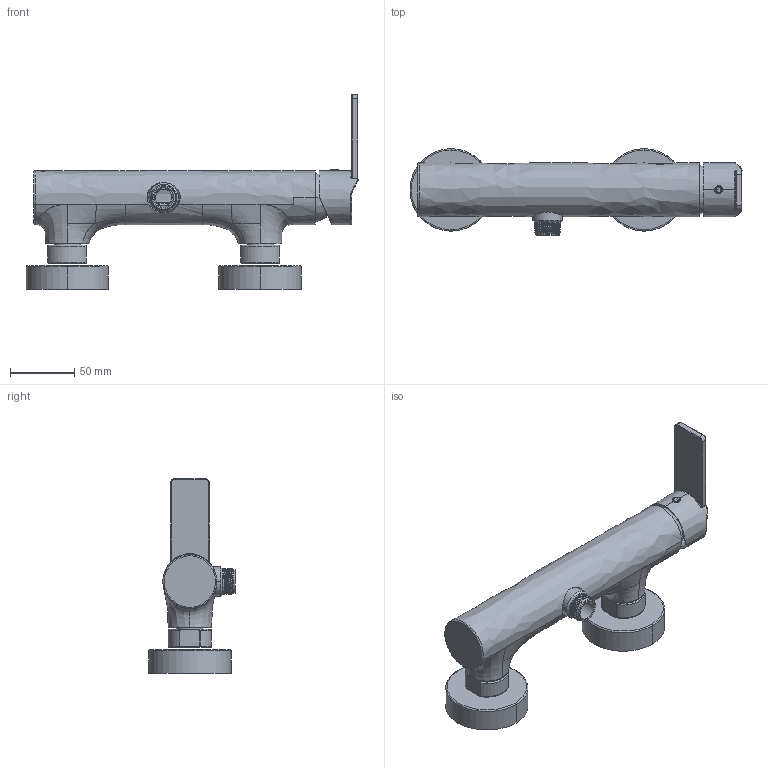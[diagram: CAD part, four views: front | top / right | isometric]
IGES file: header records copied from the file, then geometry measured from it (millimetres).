
Start section:  PTC IGES file: 47006_sw0001.igs
Global section: file name: 47006_sw0001.igs; native system: Creo Parametric by PTC Inc.; preprocessor: 2022014; author: volponeff; organization: Unknown; date: 20240221.093212; units: millimetre
Bounding box: 258.1 x 67.3 x 151.3 mm (x, y, z)
Surface area: 148098.7 mm2 (no closed solid volume)
Topology: 0 solids, 0 shells, 1430 faces, 7462 edges, 7455 vertices
Faces by surface type: revolution 759, bspline 671
